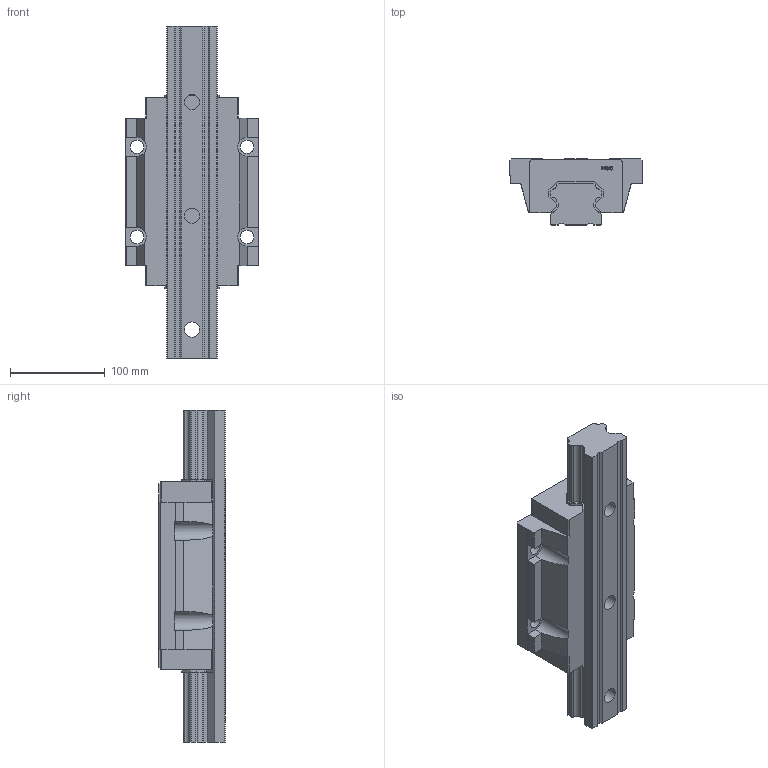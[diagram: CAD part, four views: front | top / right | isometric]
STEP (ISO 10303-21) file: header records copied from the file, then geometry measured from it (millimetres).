
FILE_DESCRIPTION(/* description */ (''),/* implementation_level */ '2;1');
FILE_NAME(/* name */ 'LDHW55HC.stp',/* time_stamp */ '2021-05-26T11:39:42+08:00',/* author */ (''),/* organization */ (''),/* preprocessor_version */ 'ST-DEVELOPER v15',/* originating_system */ 'SIEMENS PLM Software NX 8.5',/* authorisation */ '');
FILE_SCHEMA (('CONFIG_CONTROL_DESIGN'));
Length unit declared in the file: millimetre
Products named in the file (1): _model1
Bounding box: 140 x 70 x 350 mm (x, y, z)
Volume: 1682874.4 mm3; surface area: 184519.3 mm2
Topology: 2 solids, 2 shells, 208 faces, 598 edges, 400 vertices
Faces by surface type: plane 168, cylinder 26, extrusion 14
Full cylindrical faces by diameter (mm): 14 x4, 16 x3, 23 x3
Entity records: 6976 total; most frequent: CARTESIAN_POINT 1567, ORIENTED_EDGE 1168, DIRECTION 968, EDGE_CURVE 584, VECTOR 458, LINE 444, VERTEX_POINT 396, AXIS2_PLACEMENT_3D 255
